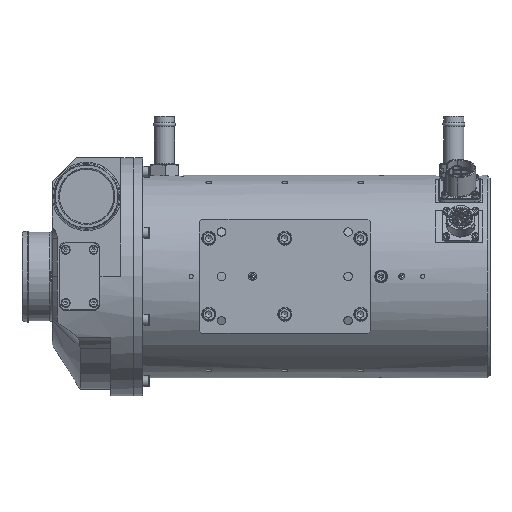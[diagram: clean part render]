
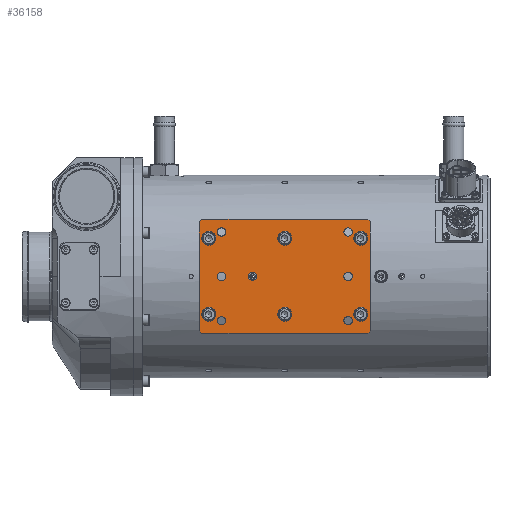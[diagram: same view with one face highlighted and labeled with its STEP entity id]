
A CAD part, top view. The second image highlights one B-rep face of the part: STEP entity #36158.
In plain terms, the highlighted planar face has unit normal (0, 0, 1).
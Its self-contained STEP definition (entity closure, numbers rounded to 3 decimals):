
#1142=FACE_BOUND('',#6248,.T.);
#1143=FACE_BOUND('',#6249,.T.);
#1144=FACE_BOUND('',#6250,.T.);
#1145=FACE_BOUND('',#6251,.T.);
#1146=FACE_BOUND('',#6252,.T.);
#1147=FACE_BOUND('',#6253,.T.);
#1148=FACE_BOUND('',#6254,.T.);
#1149=FACE_BOUND('',#6255,.T.);
#1150=FACE_BOUND('',#6256,.T.);
#1151=FACE_BOUND('',#6257,.T.);
#1152=FACE_BOUND('',#6258,.T.);
#1153=FACE_BOUND('',#6259,.T.);
#1154=FACE_BOUND('',#6260,.T.);
#1699=CIRCLE('',#38379,5.5);
#1700=CIRCLE('',#38380,5.5);
#1701=CIRCLE('',#38381,5.5);
#1702=CIRCLE('',#38382,5.5);
#1703=CIRCLE('',#38383,5.5);
#1704=CIRCLE('',#38384,5.5);
#1705=CIRCLE('',#38385,3.324);
#1706=CIRCLE('',#38386,3.324);
#1707=CIRCLE('',#38387,3.324);
#1708=CIRCLE('',#38388,3.324);
#1709=CIRCLE('',#38389,3.324);
#1710=CIRCLE('',#38390,3.324);
#1711=CIRCLE('',#38391,3.25);
#2855=PLANE('',#38378);
#4217=FACE_OUTER_BOUND('',#6247,.T.);
#6247=EDGE_LOOP('',(#25885,#25886,#25887,#25888,#25889,#25890,#25891,#25892));
#6248=EDGE_LOOP('',(#25893));
#6249=EDGE_LOOP('',(#25894));
#6250=EDGE_LOOP('',(#25895));
#6251=EDGE_LOOP('',(#25896));
#6252=EDGE_LOOP('',(#25897));
#6253=EDGE_LOOP('',(#25898));
#6254=EDGE_LOOP('',(#25899));
#6255=EDGE_LOOP('',(#25900));
#6256=EDGE_LOOP('',(#25901));
#6257=EDGE_LOOP('',(#25902));
#6258=EDGE_LOOP('',(#25903));
#6259=EDGE_LOOP('',(#25904));
#6260=EDGE_LOOP('',(#25905));
#8657=LINE('',#60727,#11617);
#8664=LINE('',#60741,#11624);
#8670=LINE('',#60757,#11630);
#8678=LINE('',#60773,#11638);
#8680=LINE('',#60776,#11640);
#8681=LINE('',#60778,#11641);
#8682=LINE('',#60780,#11642);
#8683=LINE('',#60781,#11643);
#11617=VECTOR('',#42884,10.);
#11624=VECTOR('',#42895,10.);
#11630=VECTOR('',#42907,10.);
#11638=VECTOR('',#42919,10.);
#11640=VECTOR('',#42923,10.);
#11641=VECTOR('',#42924,10.);
#11642=VECTOR('',#42925,10.);
#11643=VECTOR('',#42926,10.);
#15610=VERTEX_POINT('',#60724);
#15611=VERTEX_POINT('',#60726);
#15616=VERTEX_POINT('',#60740);
#15623=VERTEX_POINT('',#60756);
#15628=VERTEX_POINT('',#60770);
#15629=VERTEX_POINT('',#60772);
#15630=VERTEX_POINT('',#60777);
#15631=VERTEX_POINT('',#60779);
#15632=VERTEX_POINT('',#60782);
#15633=VERTEX_POINT('',#60784);
#15634=VERTEX_POINT('',#60786);
#15635=VERTEX_POINT('',#60788);
#15636=VERTEX_POINT('',#60790);
#15637=VERTEX_POINT('',#60792);
#15638=VERTEX_POINT('',#60794);
#15639=VERTEX_POINT('',#60796);
#15640=VERTEX_POINT('',#60798);
#15641=VERTEX_POINT('',#60800);
#15642=VERTEX_POINT('',#60802);
#15643=VERTEX_POINT('',#60804);
#15644=VERTEX_POINT('',#60806);
#19485=EDGE_CURVE('',#15610,#15611,#8657,.T.);
#19492=EDGE_CURVE('',#15616,#15611,#8664,.T.);
#19500=EDGE_CURVE('',#15616,#15623,#8670,.T.);
#19508=EDGE_CURVE('',#15628,#15629,#8678,.T.);
#19510=EDGE_CURVE('',#15610,#15629,#8680,.T.);
#19511=EDGE_CURVE('',#15630,#15628,#8681,.T.);
#19512=EDGE_CURVE('',#15631,#15630,#8682,.T.);
#19513=EDGE_CURVE('',#15623,#15631,#8683,.T.);
#19514=EDGE_CURVE('',#15632,#15632,#1699,.T.);
#19515=EDGE_CURVE('',#15633,#15633,#1700,.T.);
#19516=EDGE_CURVE('',#15634,#15634,#1701,.T.);
#19517=EDGE_CURVE('',#15635,#15635,#1702,.T.);
#19518=EDGE_CURVE('',#15636,#15636,#1703,.T.);
#19519=EDGE_CURVE('',#15637,#15637,#1704,.T.);
#19520=EDGE_CURVE('',#15638,#15638,#1705,.T.);
#19521=EDGE_CURVE('',#15639,#15639,#1706,.T.);
#19522=EDGE_CURVE('',#15640,#15640,#1707,.T.);
#19523=EDGE_CURVE('',#15641,#15641,#1708,.T.);
#19524=EDGE_CURVE('',#15642,#15642,#1709,.T.);
#19525=EDGE_CURVE('',#15643,#15643,#1710,.T.);
#19526=EDGE_CURVE('',#15644,#15644,#1711,.T.);
#25885=ORIENTED_EDGE('',*,*,#19485,.F.);
#25886=ORIENTED_EDGE('',*,*,#19510,.T.);
#25887=ORIENTED_EDGE('',*,*,#19508,.F.);
#25888=ORIENTED_EDGE('',*,*,#19511,.F.);
#25889=ORIENTED_EDGE('',*,*,#19512,.F.);
#25890=ORIENTED_EDGE('',*,*,#19513,.F.);
#25891=ORIENTED_EDGE('',*,*,#19500,.F.);
#25892=ORIENTED_EDGE('',*,*,#19492,.T.);
#25893=ORIENTED_EDGE('',*,*,#19514,.T.);
#25894=ORIENTED_EDGE('',*,*,#19515,.T.);
#25895=ORIENTED_EDGE('',*,*,#19516,.T.);
#25896=ORIENTED_EDGE('',*,*,#19517,.T.);
#25897=ORIENTED_EDGE('',*,*,#19518,.T.);
#25898=ORIENTED_EDGE('',*,*,#19519,.T.);
#25899=ORIENTED_EDGE('',*,*,#19520,.T.);
#25900=ORIENTED_EDGE('',*,*,#19521,.T.);
#25901=ORIENTED_EDGE('',*,*,#19522,.T.);
#25902=ORIENTED_EDGE('',*,*,#19523,.T.);
#25903=ORIENTED_EDGE('',*,*,#19524,.T.);
#25904=ORIENTED_EDGE('',*,*,#19525,.T.);
#25905=ORIENTED_EDGE('',*,*,#19526,.T.);
#36158=ADVANCED_FACE('',(#4217,#1142,#1143,#1144,#1145,#1146,#1147,#1148,
#1149,#1150,#1151,#1152,#1153,#1154),#2855,.T.);
#38378=AXIS2_PLACEMENT_3D('',#60775,#42921,#42922);
#38379=AXIS2_PLACEMENT_3D('',#60783,#42927,#42928);
#38380=AXIS2_PLACEMENT_3D('',#60785,#42929,#42930);
#38381=AXIS2_PLACEMENT_3D('',#60787,#42931,#42932);
#38382=AXIS2_PLACEMENT_3D('',#60789,#42933,#42934);
#38383=AXIS2_PLACEMENT_3D('',#60791,#42935,#42936);
#38384=AXIS2_PLACEMENT_3D('',#60793,#42937,#42938);
#38385=AXIS2_PLACEMENT_3D('',#60795,#42939,#42940);
#38386=AXIS2_PLACEMENT_3D('',#60797,#42941,#42942);
#38387=AXIS2_PLACEMENT_3D('',#60799,#42943,#42944);
#38388=AXIS2_PLACEMENT_3D('',#60801,#42945,#42946);
#38389=AXIS2_PLACEMENT_3D('',#60803,#42947,#42948);
#38390=AXIS2_PLACEMENT_3D('',#60805,#42949,#42950);
#38391=AXIS2_PLACEMENT_3D('',#60807,#42951,#42952);
#42884=DIRECTION('',(0.707,-0.707,0.));
#42895=DIRECTION('',(0.,1.,0.));
#42907=DIRECTION('',(-0.707,-0.707,0.));
#42919=DIRECTION('',(0.707,0.707,0.));
#42921=DIRECTION('center_axis',(0.,0.,
1.));
#42922=DIRECTION('ref_axis',(0.,1.,0.));
#42923=DIRECTION('',(-1.,0.,0.));
#42924=DIRECTION('',(0.,1.,0.));
#42925=DIRECTION('',(-0.707,0.707,0.));
#42926=DIRECTION('',(-1.,0.,0.));
#42927=DIRECTION('center_axis',(0.,0.,
-1.));
#42928=DIRECTION('ref_axis',(0.,-1.,0.));
#42929=DIRECTION('center_axis',(0.,0.,
-1.));
#42930=DIRECTION('ref_axis',(0.,-1.,0.));
#42931=DIRECTION('center_axis',(0.,0.,
-1.));
#42932=DIRECTION('ref_axis',(0.,-1.,0.));
#42933=DIRECTION('center_axis',(0.,0.,
-1.));
#42934=DIRECTION('ref_axis',(0.,-1.,0.));
#42935=DIRECTION('center_axis',(0.,0.,
-1.));
#42936=DIRECTION('ref_axis',(0.,-1.,0.));
#42937=DIRECTION('center_axis',(0.,0.,
-1.));
#42938=DIRECTION('ref_axis',(0.,-1.,0.));
#42939=DIRECTION('center_axis',(0.,0.,
-1.));
#42940=DIRECTION('ref_axis',(0.,-1.,0.));
#42941=DIRECTION('center_axis',(0.,0.,
-1.));
#42942=DIRECTION('ref_axis',(0.,-1.,0.));
#42943=DIRECTION('center_axis',(0.,0.,
-1.));
#42944=DIRECTION('ref_axis',(0.,-1.,0.));
#42945=DIRECTION('center_axis',(0.,0.,
-1.));
#42946=DIRECTION('ref_axis',(0.,-1.,0.));
#42947=DIRECTION('center_axis',(0.,0.,
-1.));
#42948=DIRECTION('ref_axis',(0.,-1.,0.));
#42949=DIRECTION('center_axis',(0.,0.,
-1.));
#42950=DIRECTION('ref_axis',(0.,-1.,0.));
#42951=DIRECTION('center_axis',(0.,0.,
-1.));
#42952=DIRECTION('ref_axis',(0.,-1.,0.));
#60724=CARTESIAN_POINT('',(198.5,45.,98.));
#60726=CARTESIAN_POINT('',(200.5,43.,98.));
#60727=CARTESIAN_POINT('',(222.,21.5,98.));
#60740=CARTESIAN_POINT('',(200.5,-43.,98.));
#60741=CARTESIAN_POINT('',(200.5,-45.,98.));
#60756=CARTESIAN_POINT('',(198.5,-45.,98.));
#60757=CARTESIAN_POINT('',(199.5,-44.,98.));
#60770=CARTESIAN_POINT('',(65.5,43.,98.));
#60772=CARTESIAN_POINT('',(67.5,45.,98.));
#60773=CARTESIAN_POINT('',(77.75,55.25,98.));
#60775=CARTESIAN_POINT('Origin',(200.5,-45.,98.));
#60776=CARTESIAN_POINT('',(200.5,45.,98.));
#60777=CARTESIAN_POINT('',(65.5,-43.,98.));
#60778=CARTESIAN_POINT('',(65.5,-45.,98.));
#60779=CARTESIAN_POINT('',(67.5,-45.,98.));
#60780=CARTESIAN_POINT('',(100.25,-77.75,98.));
#60781=CARTESIAN_POINT('',(200.5,-45.,98.));
#60782=CARTESIAN_POINT('',(133.,35.5,98.));
#60783=CARTESIAN_POINT('Origin',(133.,30.,98.));
#60784=CARTESIAN_POINT('',(73.,-24.5,98.));
#60785=CARTESIAN_POINT('Origin',(73.,-30.,98.));
#60786=CARTESIAN_POINT('',(193.,-24.5,98.));
#60787=CARTESIAN_POINT('Origin',(193.,-30.,98.));
#60788=CARTESIAN_POINT('',(193.,35.5,98.));
#60789=CARTESIAN_POINT('Origin',(193.,30.,98.));
#60790=CARTESIAN_POINT('',(73.,35.5,98.));
#60791=CARTESIAN_POINT('Origin',(73.,30.,98.));
#60792=CARTESIAN_POINT('',(133.,-24.5,98.));
#60793=CARTESIAN_POINT('Origin',(133.,-30.,98.));
#60794=CARTESIAN_POINT('',(83.,-31.677,98.));
#60795=CARTESIAN_POINT('Origin',(83.,-35.,98.));
#60796=CARTESIAN_POINT('',(183.,38.324,98.));
#60797=CARTESIAN_POINT('Origin',(183.,35.,98.));
#60798=CARTESIAN_POINT('',(83.,3.324,98.));
#60799=CARTESIAN_POINT('Origin',(83.,0.,
98.));
#60800=CARTESIAN_POINT('',(183.,3.323,98.));
#60801=CARTESIAN_POINT('Origin',(183.,0.,98.));
#60802=CARTESIAN_POINT('',(83.,38.324,98.));
#60803=CARTESIAN_POINT('Origin',(83.,35.,98.));
#60804=CARTESIAN_POINT('',(183.,-31.677,98.));
#60805=CARTESIAN_POINT('Origin',(183.,-35.,98.));
#60806=CARTESIAN_POINT('',(107.5,3.25,98.));
#60807=CARTESIAN_POINT('Origin',(107.5,0.,98.));
